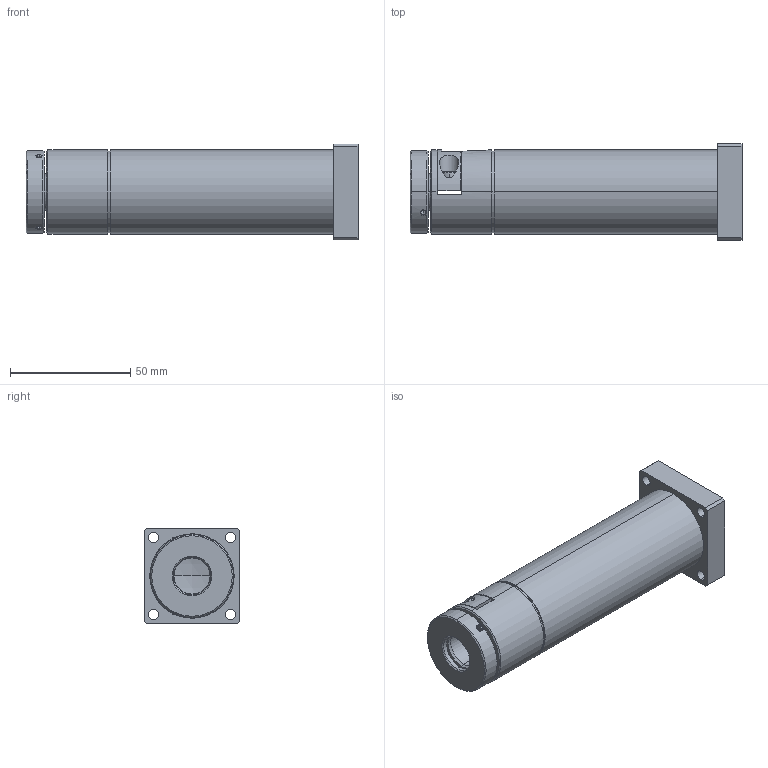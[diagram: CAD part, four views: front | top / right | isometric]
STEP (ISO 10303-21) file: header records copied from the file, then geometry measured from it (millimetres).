
FILE_DESCRIPTION (( 'STEP AP214' ), '1' );
FILE_NAME ('PT-P00554.STEP', '2018-09-19T09:05:48', ( '' ), ( '' ), 'SwSTEP 2.0', 'SolidWorks 2014', '' );
FILE_SCHEMA (( 'AUTOMOTIVE_DESIGN' ));
Length unit declared in the file: millimetre
Products named in the file (1): PT-P00554
Bounding box: 138 x 39.9 x 39.9 mm (x, y, z)
Surface area: 26029.7 mm2 (no closed solid volume)
Topology: 0 solids, 15 shells, 193 faces, 601 edges, 418 vertices
Faces by surface type: plane 86, cylinder 72, cone 24, torus 6, bspline 3, sphere 2
Entity records: 9325 total; most frequent: CARTESIAN_POINT 1901, DIRECTION 1118, ORIENTED_EDGE 994, EDGE_CURVE 599, AXIS2_PLACEMENT_3D 424, VERTEX_POINT 418, VECTOR 270, LINE 270
